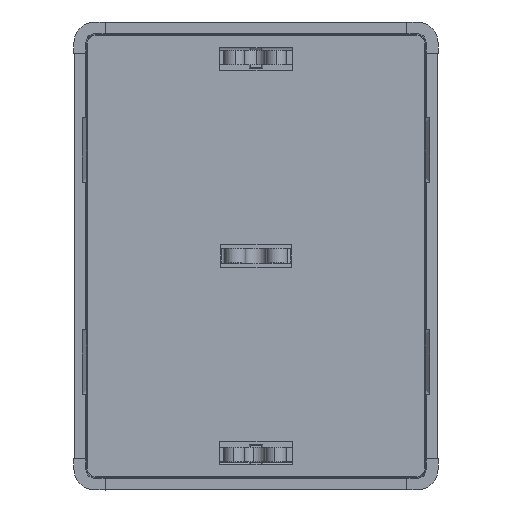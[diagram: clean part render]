
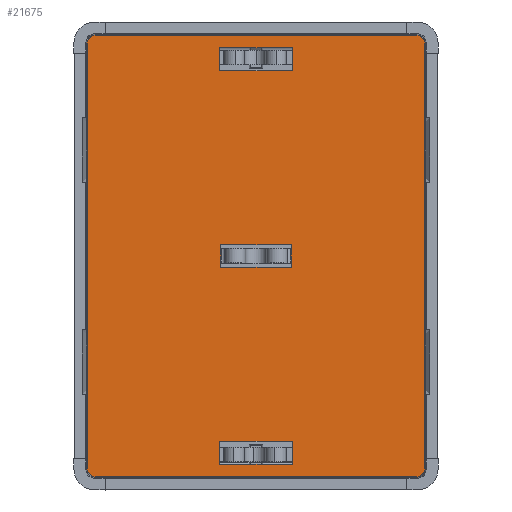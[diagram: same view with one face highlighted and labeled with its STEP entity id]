
A CAD part, top view. The second image highlights one B-rep face of the part: STEP entity #21675.
In plain terms, the highlighted planar face has unit normal (0, 0, 1) as drawn and (0, 1, 0) by its records, which use the part's own axes.
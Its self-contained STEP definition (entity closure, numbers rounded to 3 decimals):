
#768=PLANE('',#23078);
#1853=LINE('',#30010,#4399);
#1855=LINE('',#30014,#4401);
#1858=LINE('',#30020,#4404);
#1860=LINE('',#30024,#4406);
#1861=LINE('',#30029,#4407);
#1862=LINE('',#30033,#4408);
#1863=LINE('',#30037,#4409);
#1864=LINE('',#30041,#4410);
#1865=LINE('',#30042,#4411);
#1866=LINE('',#30045,#4412);
#1867=LINE('',#30047,#4413);
#1868=LINE('',#30049,#4414);
#1869=LINE('',#30050,#4415);
#1870=LINE('',#30053,#4416);
#1871=LINE('',#30055,#4417);
#1872=LINE('',#30057,#4418);
#4399=VECTOR('',#24817,1000.);
#4401=VECTOR('',#24821,1000.);
#4404=VECTOR('',#24828,1000.);
#4406=VECTOR('',#24832,1000.);
#4407=VECTOR('',#24837,1000.);
#4408=VECTOR('',#24840,1000.);
#4409=VECTOR('',#24843,1000.);
#4410=VECTOR('',#24846,1000.);
#4411=VECTOR('',#24847,1000.);
#4412=VECTOR('',#24848,1000.);
#4413=VECTOR('',#24849,1000.);
#4414=VECTOR('',#24850,1000.);
#4415=VECTOR('',#24851,1000.);
#4416=VECTOR('',#24852,1000.);
#4417=VECTOR('',#24853,1000.);
#4418=VECTOR('',#24854,1000.);
#7342=ORIENTED_EDGE('',*,*,#13401,.T.);
#7343=ORIENTED_EDGE('',*,*,#13402,.T.);
#7344=ORIENTED_EDGE('',*,*,#13403,.F.);
#7345=ORIENTED_EDGE('',*,*,#13404,.T.);
#7346=ORIENTED_EDGE('',*,*,#13405,.T.);
#7347=ORIENTED_EDGE('',*,*,#13406,.F.);
#7348=ORIENTED_EDGE('',*,*,#13407,.F.);
#7349=ORIENTED_EDGE('',*,*,#13408,.T.);
#7350=ORIENTED_EDGE('',*,*,#13393,.T.);
#7351=ORIENTED_EDGE('',*,*,#13400,.T.);
#7352=ORIENTED_EDGE('',*,*,#13398,.F.);
#7353=ORIENTED_EDGE('',*,*,#13395,.T.);
#7354=ORIENTED_EDGE('',*,*,#13409,.T.);
#7355=ORIENTED_EDGE('',*,*,#13410,.F.);
#7356=ORIENTED_EDGE('',*,*,#13411,.T.);
#7357=ORIENTED_EDGE('',*,*,#13412,.F.);
#7358=ORIENTED_EDGE('',*,*,#13413,.F.);
#7359=ORIENTED_EDGE('',*,*,#13414,.T.);
#7360=ORIENTED_EDGE('',*,*,#13415,.T.);
#7361=ORIENTED_EDGE('',*,*,#13416,.T.);
#13393=EDGE_CURVE('',#16481,#16480,#1853,.T.);
#13395=EDGE_CURVE('',#16482,#16481,#1855,.T.);
#13398=EDGE_CURVE('',#16482,#16483,#1858,.T.);
#13400=EDGE_CURVE('',#16480,#16483,#1860,.T.);
#13401=EDGE_CURVE('',#16484,#16485,#18481,.T.);
#13402=EDGE_CURVE('',#16485,#16486,#1861,.T.);
#13403=EDGE_CURVE('',#16487,#16486,#18482,.T.);
#13404=EDGE_CURVE('',#16487,#16488,#1862,.T.);
#13405=EDGE_CURVE('',#16488,#16489,#18483,.T.);
#13406=EDGE_CURVE('',#16490,#16489,#1863,.T.);
#13407=EDGE_CURVE('',#16491,#16490,#18484,.T.);
#13408=EDGE_CURVE('',#16491,#16484,#1864,.T.);
#13409=EDGE_CURVE('',#16492,#16493,#1865,.T.);
#13410=EDGE_CURVE('',#16494,#16493,#1866,.T.);
#13411=EDGE_CURVE('',#16494,#16495,#1867,.T.);
#13412=EDGE_CURVE('',#16492,#16495,#1868,.T.);
#13413=EDGE_CURVE('',#16496,#16497,#1869,.T.);
#13414=EDGE_CURVE('',#16496,#16498,#1870,.T.);
#13415=EDGE_CURVE('',#16498,#16499,#1871,.T.);
#13416=EDGE_CURVE('',#16499,#16497,#1872,.T.);
#16480=VERTEX_POINT('',#30009);
#16481=VERTEX_POINT('',#30011);
#16482=VERTEX_POINT('',#30015);
#16483=VERTEX_POINT('',#30021);
#16484=VERTEX_POINT('',#30027);
#16485=VERTEX_POINT('',#30028);
#16486=VERTEX_POINT('',#30030);
#16487=VERTEX_POINT('',#30032);
#16488=VERTEX_POINT('',#30034);
#16489=VERTEX_POINT('',#30036);
#16490=VERTEX_POINT('',#30038);
#16491=VERTEX_POINT('',#30040);
#16492=VERTEX_POINT('',#30043);
#16493=VERTEX_POINT('',#30044);
#16494=VERTEX_POINT('',#30046);
#16495=VERTEX_POINT('',#30048);
#16496=VERTEX_POINT('',#30051);
#16497=VERTEX_POINT('',#30052);
#16498=VERTEX_POINT('',#30054);
#16499=VERTEX_POINT('',#30056);
#18481=CIRCLE('',#23079,0.778);
#18482=CIRCLE('',#23080,0.778);
#18483=CIRCLE('',#23081,0.778);
#18484=CIRCLE('',#23082,0.778);
#18709=EDGE_LOOP('',(#7342,#7343,#7344,#7345,#7346,#7347,#7348,#7349));
#18710=EDGE_LOOP('',(#7350,#7351,#7352,#7353));
#18711=EDGE_LOOP('',(#7354,#7355,#7356,#7357));
#18712=EDGE_LOOP('',(#7358,#7359,#7360,#7361));
#20160=FACE_BOUND('',#18709,.T.);
#20161=FACE_BOUND('',#18710,.T.);
#20162=FACE_BOUND('',#18711,.T.);
#20163=FACE_BOUND('',#18712,.T.);
#21675=ADVANCED_FACE('',(#20160,#20161,#20162,#20163),#768,.T.);
#23078=AXIS2_PLACEMENT_3D('',#30025,#24833,#24834);
#23079=AXIS2_PLACEMENT_3D('',#30026,#24835,#24836);
#23080=AXIS2_PLACEMENT_3D('',#30031,#24838,#24839);
#23081=AXIS2_PLACEMENT_3D('',#30035,#24841,#24842);
#23082=AXIS2_PLACEMENT_3D('',#30039,#24844,#24845);
#24817=DIRECTION('',(-1.,0.,0.));
#24821=DIRECTION('',(0.,0.,1.));
#24828=DIRECTION('',(-1.,0.,0.));
#24832=DIRECTION('',(0.,0.,-1.));
#24833=DIRECTION('',(0.,1.,0.));
#24834=DIRECTION('',(-1.,0.,0.));
#24835=DIRECTION('',(0.,1.,0.));
#24836=DIRECTION('',(-1.,0.,0.));
#24837=DIRECTION('',(1.,0.,0.));
#24838=DIRECTION('',(0.,-1.,0.));
#24839=DIRECTION('',(1.,0.,0.));
#24840=DIRECTION('',(0.,0.,-1.));
#24841=DIRECTION('',(0.,1.,0.));
#24842=DIRECTION('',(1.,0.,0.));
#24843=DIRECTION('',(1.,0.,0.));
#24844=DIRECTION('',(0.,-1.,0.));
#24845=DIRECTION('',(-1.,0.,0.));
#24846=DIRECTION('',(0.,0.,1.));
#24847=DIRECTION('',(0.,0.,-1.));
#24848=DIRECTION('',(-1.,0.,0.));
#24849=DIRECTION('',(0.,0.,1.));
#24850=DIRECTION('',(1.,0.,0.));
#24851=DIRECTION('',(-1.,0.,0.));
#24852=DIRECTION('',(0.,0.,1.));
#24853=DIRECTION('',(-1.,0.,0.));
#24854=DIRECTION('',(0.,0.,-1.));
#30009=CARTESIAN_POINT('',(-3.4,6.75,1.1));
#30010=CARTESIAN_POINT('',(3.4,6.75,1.1));
#30011=CARTESIAN_POINT('',(3.4,6.75,1.1));
#30014=CARTESIAN_POINT('',(3.4,6.75,-1.1));
#30015=CARTESIAN_POINT('',(3.4,6.75,-1.1));
#30020=CARTESIAN_POINT('',(3.4,6.75,-1.1));
#30021=CARTESIAN_POINT('',(-3.4,6.75,-1.1));
#30024=CARTESIAN_POINT('',(-3.4,6.75,1.1));
#30025=CARTESIAN_POINT('',(0.,6.75,0.));
#30026=CARTESIAN_POINT('',(-15.45,6.75,20.45));
#30027=CARTESIAN_POINT('',(-16.228,6.75,20.45));
#30028=CARTESIAN_POINT('',(-15.45,6.75,21.228));
#30029=CARTESIAN_POINT('',(-15.45,6.75,21.228));
#30030=CARTESIAN_POINT('',(15.45,6.75,21.228));
#30031=CARTESIAN_POINT('',(15.45,6.75,20.45));
#30032=CARTESIAN_POINT('',(16.228,6.75,20.45));
#30033=CARTESIAN_POINT('',(16.228,6.75,20.45));
#30034=CARTESIAN_POINT('',(16.228,6.75,-20.45));
#30035=CARTESIAN_POINT('',(15.45,6.75,-20.45));
#30036=CARTESIAN_POINT('',(15.45,6.75,-21.228));
#30037=CARTESIAN_POINT('',(-15.45,6.75,-21.228));
#30038=CARTESIAN_POINT('',(-15.45,6.75,-21.228));
#30039=CARTESIAN_POINT('',(-15.45,6.75,-20.45));
#30040=CARTESIAN_POINT('',(-16.228,6.75,-20.45));
#30041=CARTESIAN_POINT('',(-16.228,6.75,-20.45));
#30042=CARTESIAN_POINT('',(-3.5,6.75,-17.8));
#30043=CARTESIAN_POINT('',(-3.5,6.75,-17.8));
#30044=CARTESIAN_POINT('',(-3.5,6.75,-20.05));
#30045=CARTESIAN_POINT('',(3.5,6.75,-20.05));
#30046=CARTESIAN_POINT('',(3.5,6.75,-20.05));
#30047=CARTESIAN_POINT('',(3.5,6.75,-20.05));
#30048=CARTESIAN_POINT('',(3.5,6.75,-17.8));
#30049=CARTESIAN_POINT('',(-3.5,6.75,-17.8));
#30050=CARTESIAN_POINT('',(3.5,6.75,17.8));
#30051=CARTESIAN_POINT('',(3.5,6.75,17.8));
#30052=CARTESIAN_POINT('',(-3.5,6.75,17.8));
#30053=CARTESIAN_POINT('',(3.5,6.75,17.8));
#30054=CARTESIAN_POINT('',(3.5,6.75,20.05));
#30055=CARTESIAN_POINT('',(3.5,6.75,20.05));
#30056=CARTESIAN_POINT('',(-3.5,6.75,20.05));
#30057=CARTESIAN_POINT('',(-3.5,6.75,20.05));
